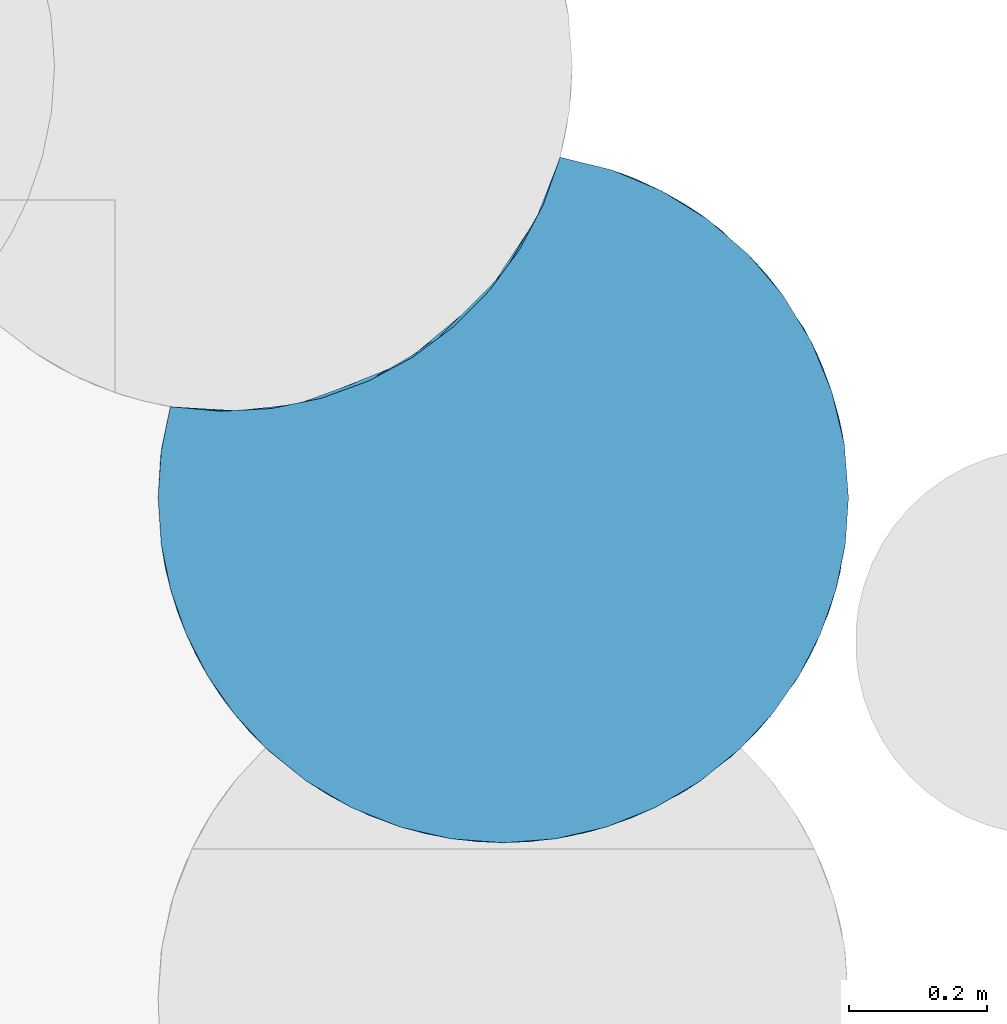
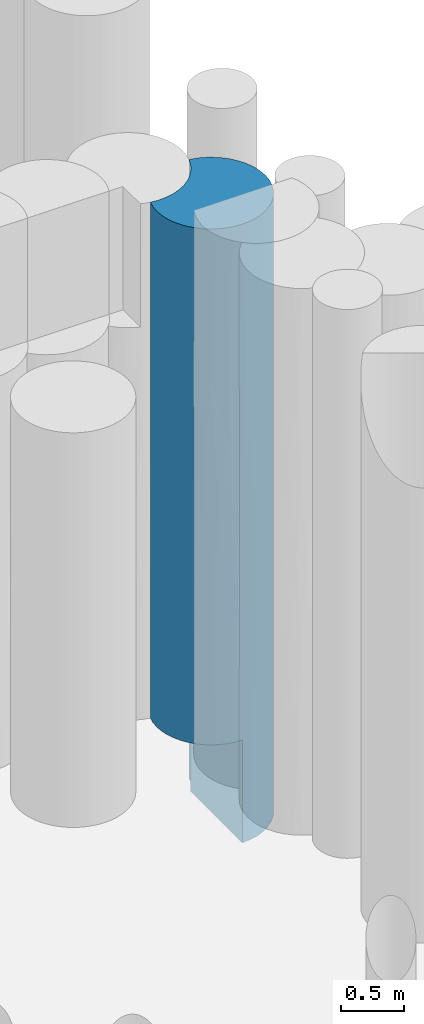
# One storey, part 99 of 104: 1 pile.
"""IFC2X3 building model written with IfcOpenShell, lengths in millimetres."""

from ifc_helpers import new_model, entity, si_unit, converted_unit, derived_unit, direction, frame, origin, place, context, subcontext, project, spatial, faceted_brep, source, transform, mapped, material, element, save


model = new_model("IFC2X3")

# Units and contexts
model_context = context("Model", 3, precision=0.01, world=origin(), true_north=direction((6.12303176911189e-17, 1.0)))
body_context = subcontext(model_context, "Body", "Model", "MODEL_VIEW")
ifc_project = project(units=[si_unit("LENGTHUNIT", "METRE", prefix="MILLI"), si_unit("AREAUNIT", "SQUARE_METRE", prefix="MILLI"), si_unit("VOLUMEUNIT", "CUBIC_METRE"), converted_unit("PLANEANGLEUNIT", "DEGREE", entity("IfcRatioMeasure", 0.0174532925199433), si_unit("PLANEANGLEUNIT", "RADIAN"), dimensions=[0, 0, 0, 0, 0, 0, 0]), si_unit("MASSUNIT", "GRAM", prefix="KILO"), derived_unit("MASSDENSITYUNIT", [(si_unit("MASSUNIT", "GRAM", prefix="KILO"), 1), (si_unit("LENGTHUNIT", "METRE"), -3)]), derived_unit("MOMENTOFINERTIAUNIT", [(si_unit("LENGTHUNIT", "METRE"), 4)]), si_unit("TIMEUNIT", "SECOND"), si_unit("FREQUENCYUNIT", "HERTZ"), si_unit("THERMODYNAMICTEMPERATUREUNIT", "DEGREE_CELSIUS"), derived_unit("THERMALTRANSMITTANCEUNIT", [(si_unit("MASSUNIT", "GRAM", prefix="KILO"), 1), (si_unit("THERMODYNAMICTEMPERATUREUNIT", "KELVIN"), -1), (si_unit("TIMEUNIT", "SECOND"), -3)]), derived_unit("VOLUMETRICFLOWRATEUNIT", [(si_unit("LENGTHUNIT", "METRE"), 3), (si_unit("TIMEUNIT", "SECOND"), -1)]), si_unit("ELECTRICCURRENTUNIT", "AMPERE"), si_unit("ELECTRICVOLTAGEUNIT", "VOLT"), si_unit("POWERUNIT", "WATT"), si_unit("FORCEUNIT", "NEWTON", prefix="KILO"), si_unit("ILLUMINANCEUNIT", "LUX"), si_unit("LUMINOUSFLUXUNIT", "LUMEN"), si_unit("LUMINOUSINTENSITYUNIT", "CANDELA"), derived_unit("USERDEFINED", [(si_unit("MASSUNIT", "GRAM", prefix="KILO"), -1), (si_unit("LENGTHUNIT", "METRE"), -2), (si_unit("TIMEUNIT", "SECOND"), 3), (si_unit("LUMINOUSFLUXUNIT", "LUMEN"), 1)]), derived_unit("LINEARVELOCITYUNIT", [(si_unit("LENGTHUNIT", "METRE"), 1), (si_unit("TIMEUNIT", "SECOND"), -1)]), si_unit("PRESSUREUNIT", "PASCAL"), derived_unit("USERDEFINED", [(si_unit("LENGTHUNIT", "METRE"), -2), (si_unit("MASSUNIT", "GRAM", prefix="KILO"), 1), (si_unit("TIMEUNIT", "SECOND"), -2)]), derived_unit("LINEARFORCEUNIT", [(si_unit("MASSUNIT", "GRAM", prefix="KILO"), 1), (si_unit("LENGTHUNIT", "METRE"), 1), (si_unit("TIMEUNIT", "SECOND"), -2), (si_unit("LENGTHUNIT", "METRE"), -1)]), derived_unit("PLANARFORCEUNIT", [(si_unit("MASSUNIT", "GRAM", prefix="KILO"), 1), (si_unit("LENGTHUNIT", "METRE"), 1), (si_unit("TIMEUNIT", "SECOND"), -2), (si_unit("LENGTHUNIT", "METRE"), -2)])], contexts=[model_context])

# Site, building, storey
site_placement = place(None, origin())
site = spatial("IfcSite", under=ifc_project, at=site_placement, Name="Theater aan de Parade", CompositionType="ELEMENT")
building_placement = place(site_placement, origin())
building = spatial("IfcBuilding", under=site, at=building_placement, Name="Theater aan de Parade", CompositionType="ELEMENT")
storey_placement = place(building_placement, frame((0.0, 0.0, -5520.0)))
storey = spatial("IfcBuildingStorey", under=building, at=storey_placement, Name="-2 kelder", CompositionType="ELEMENT", Elevation=-5520.0)

# Pile
ifc_material = material(Name="00_PBT_MAT_grout")
shared_shape = source(origin(), body_context, "Body", "Brep", [
    faceted_brep([(856.770846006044, 853.519002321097, 0.0), (907.182238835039, 793.997756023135, 0.0), (947.723139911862, 727.360472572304, 0.0), (977.406918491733, 655.228853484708, 0.0), (995.511162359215, 579.35833212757, 0.0), (1001.59527223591, 501.595272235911, 0.0), (997.031356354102, 434.192849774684, 0.0), (983.430865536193, 368.049545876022, 0.0), (961.041980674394, 304.342332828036, 0.0), (930.274616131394, 244.235562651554, 0.0), (891.687703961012, 188.820761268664, 0.0), (845.989800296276, 139.11729173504, 0.0), (787.141739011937, 91.1525657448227, 0.0), (721.721625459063, 52.6583182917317, 0.0), (651.227602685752, 24.5102004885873, 0.0), (577.284625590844, 7.35735201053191, 0.0), (501.595272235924, 1.5952722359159, 0.0), (501.595272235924, 826.59527223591, 0.0), (536.017453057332, 879.052611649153, 0.0), (563.598945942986, 935.407915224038, 0.0), (583.905435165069, 994.773776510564, 0.0), (659.598902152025, 975.973658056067, 0.0), (731.454297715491, 945.627735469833, 0.0), (797.715801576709, 904.475691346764, 0.0), (1001.59527223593, 501.595272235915, 1561.53772382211), (987.940784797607, 617.647167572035, 1018.55000997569), (992.825137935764, 594.832705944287, 1931.56881822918), (954.89400581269, 712.593514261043, 918.422765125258), (883.138984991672, 824.742909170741, 1441.46934782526), (696.119251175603, 962.204023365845, 1018.54942080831), (784.330788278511, 913.979350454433, 5101.57718782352), (765.388743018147, 926.345792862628, 4194.3608548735), (696.119251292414, 962.204023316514, 5001.45057817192), (784.33078844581, 913.979350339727, 918.422811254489), (1001.59527223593, 501.595272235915, 4571.53772382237), (987.940784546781, 617.647168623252, 5001.44998711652), (1001.59527223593, 501.595272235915, 6020.0), (937.699345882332, 746.162720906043, 2615.2089110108), (883.138984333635, 824.74290994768, 3009.99999344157), (954.894005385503, 712.593515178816, 5101.57722918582), (963.973751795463, 691.874387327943, 4194.36036612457), (883.138984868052, 824.742909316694, 4578.53064537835), (814.611062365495, 891.49412467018, 3404.78374589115), (993.483625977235, 591.29392023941, 4059.02971935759), (976.295369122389, 658.629720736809, 3009.99997992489), (977.406918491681, 655.228853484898, 6020.0), (995.511162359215, 579.358332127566, 6020.0), (583.905435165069, 994.77377651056, 3123.07611130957), (671.041874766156, 972.007696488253, 4059.06688582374), (734.624507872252, 943.972232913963, 3010.0), (731.454297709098, 945.627735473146, 6020.0), (659.598902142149, 975.973658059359, 6020.0), (797.715801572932, 904.475691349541, 6020.0), (765.3887427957, 926.345793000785, 1825.63914303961), (583.905435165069, 994.773776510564, 1505.0), (583.905435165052, 994.77377651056, 1561.53805565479), (583.905435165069, 994.77377651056, 6020.0), (583.905435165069, 994.77377651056, 4571.53805565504), (947.723139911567, 727.360472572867, 6020.0), (856.770846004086, 853.519002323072, 6020.0), (907.182238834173, 793.997756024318, 6020.0), (963.97375235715, 691.874385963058, 1825.6396164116), (674.423866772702, 970.775703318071, 1931.53280873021), (1001.59527223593, 501.595272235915, 3123.07544764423), (583.905435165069, 994.773776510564, 4515.0), (583.905435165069, 994.773776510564, 3010.0), (133.521162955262, 163.185092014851, 2235.78548391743), (72.9159282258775, 244.235562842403, 1000.0), (111.502840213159, 188.820761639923, 1000.0), (164.348402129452, 132.454989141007, 4969.55106931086), (111.502840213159, 188.820761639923, 6020.0), (91.2728315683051, 215.876013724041, 4707.36914777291), (687.009538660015, 37.2445967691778, 997.523576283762), (989.922772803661, 394.188325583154, 2812.21759485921), (973.313138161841, 335.817544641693, 4172.08623452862), (954.557342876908, 289.875262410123, 3052.07499219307), (869.669381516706, 163.185092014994, 3010.0), (924.743610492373, 235.239337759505, 1986.71098093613), (42.1485639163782, 304.34233255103, 1000.0), (56.5164285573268, 273.768972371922, 2543.07436104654), (11.8415413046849, 400.891334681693, 2151.86550937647), (946.674115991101, 273.768972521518, 5017.79858030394), (961.041980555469, 304.342332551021, 6020.0), (930.27461624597, 244.23556284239, 6020.0), (463.641090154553, 3.03787327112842, 2512.30765573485), (351.225987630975, 24.7419632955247, 2381.16519743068), (425.905918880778, 7.35735201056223, 1000.0), (891.687704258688, 188.820761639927, 6020.0), (845.969705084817, 139.095272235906, 6020.0), (869.669381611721, 163.185092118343, 4531.02273593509), (985.499907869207, 375.752896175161, 1002.75612689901), (388.608699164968, 14.5285064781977, 3898.49375353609), (248.027328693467, 70.662217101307, 2597.89513102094), (216.048805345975, 91.1525658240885, 1000.0), (281.468918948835, 52.6583183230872, 1000.0), (756.611525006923, 71.5177085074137, 3449.19985660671), (787.417039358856, 91.3442302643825, 4936.01821373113), (1.5952722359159, 501.595272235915, 4458.48054192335), (29.877406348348, 335.817544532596, 5081.44644358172), (6.1591881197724, 434.192849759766, 6020.0), (157.220839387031, 139.095272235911, 6020.0), (157.220839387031, 139.095272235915, 1000.0), (501.595272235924, 1.5952722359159, 1000.0), (6.1591881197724, 434.192849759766, 1000.0), (19.7596790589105, 368.049545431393, 1000.0), (1.5952722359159, 501.595272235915, 1948.44584226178), (388.608699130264, 14.5285064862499, 4987.96579954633), (281.468918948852, 52.6583183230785, 6020.0), (248.027328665, 70.6622171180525, 4528.47235432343), (869.669381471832, 163.185091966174, 1383.12522141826), (946.674116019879, 273.76897257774, 1040.86851507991), (29.8774063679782, 335.81754447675, 4092.87247544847), (133.521163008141, 163.185091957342, 3510.0), (217.155008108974, 90.3851846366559, 3563.18374259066), (1.5952722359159, 501.595272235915, 1780.76639186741), (1.5952722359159, 501.595272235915, 1000.0), (1.5952722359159, 501.595272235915, 6020.0), (1.5952722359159, 501.595272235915, 5239.23360813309), (1.5952722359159, 501.595272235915, 4765.0020015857), (42.1485639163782, 304.342332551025, 6020.0), (19.7596790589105, 368.049545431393, 6020.0), (72.9159282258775, 244.235562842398, 6020.0), (787.141739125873, 91.1525658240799, 6020.0), (755.163215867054, 70.6622171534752, 1790.93580643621), (633.660426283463, 19.3517703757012, 2156.58407915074), (216.048805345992, 91.1525658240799, 6020.0), (13.5049352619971, 393.115675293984, 3198.32034205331), (1.5952722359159, 501.595272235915, 2896.92638418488), (68.2887484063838, 252.104878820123, 3533.14611263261), (614.581845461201, 14.5285065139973, 3412.90274214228), (687.009538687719, 37.244596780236, 4667.85803187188), (539.549206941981, 3.03785443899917, 4646.34134272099), (927.576047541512, 239.793096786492, 4103.97426136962), (351.96294176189, 24.5102004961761, 6020.0), (425.906409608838, 7.35727685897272, 6020.0), (831.085280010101, 125.515048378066, 2196.56261077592), (767.877412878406, 78.4004925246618, 2618.86507953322), (306.658276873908, 41.1611642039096, 3349.77449765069), (774.581172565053, 82.693495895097, 902.364046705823), (721.721625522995, 52.6583183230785, 6020.0), (973.31313830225, 335.817545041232, 1932.06375153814), (595.980198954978, 10.5845945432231, 865.436156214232), (997.031356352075, 434.192849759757, 6020.0), (1.5952722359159, 501.595272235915, 4137.50100079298), (1.5952722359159, 501.595272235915, 3510.0), (501.595272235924, 1.5952722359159, 6020.0), (983.430865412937, 368.049545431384, 6020.0), (984.041330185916, 370.272002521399, 5066.40263003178), (498.776656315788, 1.60321689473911, 3543.9873163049), (577.284134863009, 7.35727685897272, 6020.0), (651.227602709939, 24.5102004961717, 6020.0), (351.96294176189, 24.5102004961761, 1000.0), (1.5952722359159, 501.595272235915, 2882.49899920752), (1.5952722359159, 501.595272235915, 2254.99799841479), (525.044419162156, 860.717819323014, 6020.0), (481.554513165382, 801.586079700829, 6020.0), (429.875825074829, 749.458853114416, 6020.0), (371.1221204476, 705.459571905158, 6020.0), (306.559643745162, 670.536497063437, 6020.0), (237.579828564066, 645.442281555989, 6020.0), (165.669309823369, 630.7177493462, 6020.0), (92.377884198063, 626.680239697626, 6020.0), (19.2851093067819, 633.416767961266, 6020.0), (6.04036700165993, 568.118470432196, 6020.0), (559.408259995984, 925.579680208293, 6020.0), (6.04062523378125, 568.120394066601, 1000.0), (19.2851093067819, 633.416767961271, 1000.0), (96.9565372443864, 626.616790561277, 1000.0), (174.740762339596, 631.974470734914, 1000.0), (250.74635524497, 649.359529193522, 1000.0), (323.125136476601, 678.349224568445, 1000.0), (390.117117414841, 718.238632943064, 1000.0), (450.09329682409, 768.057789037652, 1000.0), (501.595272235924, 826.59527223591, 1000.0), (19.2851093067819, 633.416767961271, 1780.76885344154), (125.65169197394, 627.174318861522, 1962.0110287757), (111.352527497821, 626.690485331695, 4749.43360374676), (19.2851093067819, 633.416767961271, 4458.46229311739), (19.2851093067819, 633.416767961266, 4597.30534472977), (19.2851093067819, 633.416767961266, 5071.53577939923), (19.2851093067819, 633.416767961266, 5629.61479842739), (357.3998418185, 696.98612175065, 2240.83835004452), (213.082947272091, 639.18323061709, 2541.43263996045), (401.307478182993, 726.379588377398, 4700.92920259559), (504.386036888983, 830.352804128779, 5069.4680033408), (476.987044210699, 796.321117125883, 2535.73258065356), (201.895138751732, 636.75862928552, 4427.65560000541), (120.176543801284, 626.940655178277, 2891.21940887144), (19.2851093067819, 633.416767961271, 2896.92458623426), (552.877606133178, 911.318113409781, 3574.95558772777), (545.263838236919, 896.034643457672, 2471.00838859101), (301.601909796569, 668.340599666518, 4933.53625184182), (102.594712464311, 626.596271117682, 3855.15423726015), (339.482608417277, 686.811671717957, 3518.49520620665), (200.197940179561, 636.414169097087, 3480.72362546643), (19.2851093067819, 633.416767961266, 2561.53745503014), (554.986465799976, 915.795780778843, 938.520933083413), (504.386036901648, 830.352804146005, 4060.78390295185), (548.122291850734, 901.620560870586, 4565.12595322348), (436.390505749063, 755.230018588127, 3490.97345311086), (19.2851093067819, 633.416767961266, 3342.30450691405), (19.2851093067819, 633.416767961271, 4123.07491006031), (6.03746455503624, 568.096845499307, 2017.88442646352), (5.3237843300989, 562.54287507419, 2531.64291715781), (6.86221461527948, 573.977602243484, 1508.94921689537), (6.48569042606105, 571.355590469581, 3558.63335742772), (6.5410348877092, 571.747264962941, 3058.27705988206), (5.54566525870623, 564.323156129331, 5002.11557245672), (5.63974032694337, 565.062668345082, 4451.24999964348), (5.26038031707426, 562.024363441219, 5511.86308814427), (5.2191371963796, 561.68464370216, 4002.57233726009)], [[[0, 1, 2, 3, 4, 5, 6, 7, 8, 9, 10, 11, 12, 13, 14, 15, 16, 17, 18, 19, 20, 21, 22, 23]], [[24, 25, 26]], [[27, 1, 28]], [[2, 27, 3]], [[21, 29, 22]], [[30, 31, 32]], [[0, 23, 33]], [[34, 35, 36]], [[5, 25, 24]], [[1, 0, 28]], [[33, 23, 22]], [[37, 28, 38]], [[39, 35, 40]], [[41, 38, 42]], [[3, 25, 4]], [[40, 43, 44]], [[45, 46, 35]], [[47, 48, 49]], [[3, 27, 25]], [[50, 32, 51]], [[29, 33, 22]], [[37, 40, 44]], [[50, 52, 30]], [[42, 53, 49]], [[38, 41, 40]], [[33, 29, 53]], [[29, 20, 54, 55]], [[56, 32, 57]], [[48, 57, 32]], [[40, 35, 43]], [[58, 45, 39]], [[50, 30, 32]], [[41, 59, 60]], [[39, 60, 58]], [[27, 61, 25]], [[41, 30, 59]], [[4, 25, 5]], [[62, 47, 49]], [[39, 45, 35]], [[36, 35, 46]], [[38, 28, 53]], [[51, 32, 56]], [[43, 35, 34]], [[26, 25, 61]], [[20, 29, 21]], [[62, 29, 55]], [[48, 32, 31]], [[34, 63, 43]], [[24, 26, 63]], [[63, 44, 43]], [[37, 44, 61]], [[49, 48, 31]], [[48, 47, 64, 57]], [[42, 49, 31]], [[53, 29, 62]], [[40, 41, 39]], [[60, 39, 41]], [[1, 27, 2]], [[28, 61, 27]], [[61, 44, 26]], [[63, 26, 44]], [[53, 28, 33]], [[0, 33, 28]], [[62, 55, 65, 47]], [[49, 53, 62]], [[59, 30, 52]], [[41, 31, 30]], [[28, 37, 61]], [[40, 37, 38]], [[41, 42, 31]], [[53, 42, 38]], [[66, 67, 68]], [[69, 70, 71]], [[14, 13, 72]], [[73, 74, 75]], [[76, 77, 75]], [[78, 79, 80]], [[79, 67, 66]], [[81, 82, 83]], [[84, 85, 86]], [[87, 88, 89]], [[24, 90, 6]], [[85, 84, 91]], [[92, 93, 94]], [[95, 89, 96]], [[97, 98, 99]], [[100, 70, 69]], [[101, 66, 68]], [[67, 79, 78]], [[93, 92, 66]], [[84, 86, 102]], [[103, 104, 80]], [[103, 80, 105]], [[106, 107, 108]], [[109, 110, 77]], [[111, 98, 97]], [[112, 113, 69]], [[103, 105, 114, 115]], [[99, 116, 117, 118, 97]], [[119, 120, 98]], [[113, 66, 92]], [[71, 121, 98]], [[70, 121, 71]], [[96, 88, 122]], [[72, 123, 124]], [[91, 106, 108]], [[107, 125, 108]], [[126, 127, 80]], [[112, 128, 79]], [[129, 130, 131]], [[76, 75, 132]], [[133, 106, 134]], [[123, 135, 136]], [[85, 91, 137]], [[132, 81, 89]], [[138, 13, 12]], [[78, 80, 104]], [[139, 96, 122]], [[109, 138, 11]], [[102, 16, 15]], [[10, 110, 109]], [[77, 110, 140]], [[141, 14, 72]], [[123, 72, 138]], [[79, 128, 126]], [[24, 6, 5]], [[36, 142, 34]], [[126, 97, 143, 144, 127]], [[106, 145, 134]], [[146, 82, 147]], [[8, 110, 9]], [[79, 66, 112]], [[66, 101, 93]], [[90, 110, 8]], [[8, 7, 90]], [[148, 131, 91]], [[95, 130, 129]], [[74, 63, 34]], [[145, 131, 149]], [[149, 131, 130]], [[137, 108, 113]], [[145, 106, 131]], [[72, 13, 138]], [[130, 150, 149]], [[98, 121, 119]], [[135, 123, 109]], [[10, 109, 11]], [[10, 9, 110]], [[130, 139, 150]], [[96, 139, 130]], [[125, 100, 69]], [[147, 142, 146]], [[81, 74, 147]], [[102, 141, 124]], [[113, 112, 66]], [[81, 87, 89]], [[73, 24, 63]], [[82, 81, 147]], [[128, 71, 111]], [[148, 91, 84]], [[140, 110, 90]], [[87, 81, 83]], [[85, 94, 151]], [[98, 120, 99]], [[71, 98, 111]], [[106, 133, 107]], [[131, 106, 91]], [[136, 124, 123]], [[15, 141, 102]], [[129, 84, 124]], [[102, 124, 84]], [[129, 124, 136]], [[89, 95, 76]], [[75, 77, 140]], [[135, 77, 76]], [[73, 75, 140]], [[74, 81, 132]], [[76, 132, 89]], [[75, 74, 132]], [[6, 90, 7]], [[24, 140, 90]], [[74, 34, 147]], [[142, 147, 34]], [[79, 126, 80]], [[97, 126, 111]], [[11, 138, 12]], [[109, 123, 138]], [[24, 73, 140]], [[74, 73, 63]], [[71, 128, 112]], [[126, 128, 111]], [[77, 135, 109]], [[136, 76, 95]], [[76, 136, 135]], [[136, 95, 129]], [[112, 69, 71]], [[125, 69, 108]], [[137, 113, 92]], [[69, 113, 108]], [[137, 92, 85]], [[108, 137, 91]], [[94, 85, 92]], [[86, 85, 151]], [[84, 129, 148]], [[131, 148, 129]], [[95, 96, 130]], [[88, 96, 89]], [[80, 127, 152, 153, 105]], [[14, 141, 15]], [[124, 141, 72]], [[154, 155, 156, 157, 158, 159, 160, 161, 162, 163, 116, 99, 120, 119, 121, 70, 100, 125, 107, 133, 134, 145, 149, 150, 139, 122, 88, 87, 83, 82, 146, 142, 36, 46, 45, 58, 60, 59, 52, 50, 51, 56, 164]], [[115, 165, 166, 167, 168, 169, 170, 171, 172, 173, 102, 86, 151, 94, 93, 101, 68, 67, 78, 104, 103]], [[173, 17, 16, 102]], [[167, 174, 175]], [[176, 177, 178, 179, 180, 162]], [[181, 169, 182]], [[183, 156, 184]], [[170, 181, 171]], [[168, 182, 169]], [[173, 172, 185]], [[159, 186, 160]], [[167, 175, 168]], [[187, 175, 188]], [[161, 160, 176]], [[189, 65, 190]], [[159, 191, 186]], [[176, 192, 177]], [[167, 166, 174]], [[186, 193, 194]], [[157, 183, 191]], [[187, 188, 192]], [[181, 185, 172]], [[175, 174, 195, 188]], [[196, 19, 18]], [[191, 183, 193]], [[18, 17, 173]], [[190, 185, 189]], [[18, 173, 196]], [[156, 155, 184]], [[193, 181, 182]], [[20, 196, 54]], [[197, 184, 198]], [[184, 164, 198]], [[196, 173, 190]], [[154, 164, 184]], [[164, 56, 57, 64]], [[158, 157, 191]], [[156, 183, 157]], [[154, 184, 155]], [[184, 197, 183]], [[193, 183, 199]], [[189, 198, 64]], [[185, 181, 199]], [[172, 171, 181]], [[170, 169, 181]], [[182, 168, 175]], [[185, 199, 197]], [[187, 182, 175]], [[187, 194, 182]], [[192, 194, 187]], [[182, 194, 193]], [[192, 176, 186]], [[194, 192, 186]], [[192, 188, 200, 201, 177]], [[186, 176, 160]], [[161, 176, 162]], [[197, 198, 189]], [[64, 198, 164]], [[197, 189, 185]], [[189, 64, 47, 65]], [[185, 190, 173]], [[190, 65, 55, 54]], [[19, 196, 20]], [[54, 196, 190]], [[197, 199, 183]], [[193, 199, 181]], [[158, 191, 159]], [[186, 191, 193]], [[202, 153, 203]], [[166, 165, 204]], [[205, 206, 144]], [[115, 114, 204]], [[202, 204, 114]], [[118, 117, 207]], [[208, 143, 97, 118]], [[179, 207, 209]], [[202, 114, 105, 153]], [[163, 209, 116]], [[163, 162, 180]], [[207, 178, 208]], [[174, 202, 195]], [[202, 203, 195]], [[204, 202, 174]], [[207, 117, 209]], [[209, 180, 179]], [[143, 208, 210]], [[207, 208, 118]], [[210, 201, 205]], [[116, 209, 117]], [[180, 209, 163]], [[153, 152, 203]], [[205, 200, 206]], [[206, 195, 203]], [[206, 203, 152]], [[166, 204, 174]], [[204, 165, 115]], [[206, 152, 127, 144]], [[206, 200, 188, 195]], [[210, 144, 143]], [[201, 200, 205]], [[201, 210, 208]], [[144, 210, 205]], [[178, 207, 179]], [[208, 178, 177, 201]]]),
])
pile_placement = place(storey_placement, frame((86298.4047277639, 19577.3807468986, -3840.0)))
element("IfcPile", 1, at=pile_placement, inside=storey, material=ifc_material, Name="17_PBT_SFO_grondkering_rond:Ø1000 (grondkering)", ObjectType="17_PBT_SFO_grondkering_rond:Ø1000 (grondkering)", PredefinedType="NOTDEFINED", context=body_context, shape_type="MappedRepresentation", body=[
    mapped(shared_shape, transform((0.0, 0.0, 0.0), scale=1.0)),
])

save(model, "model.ifc")
